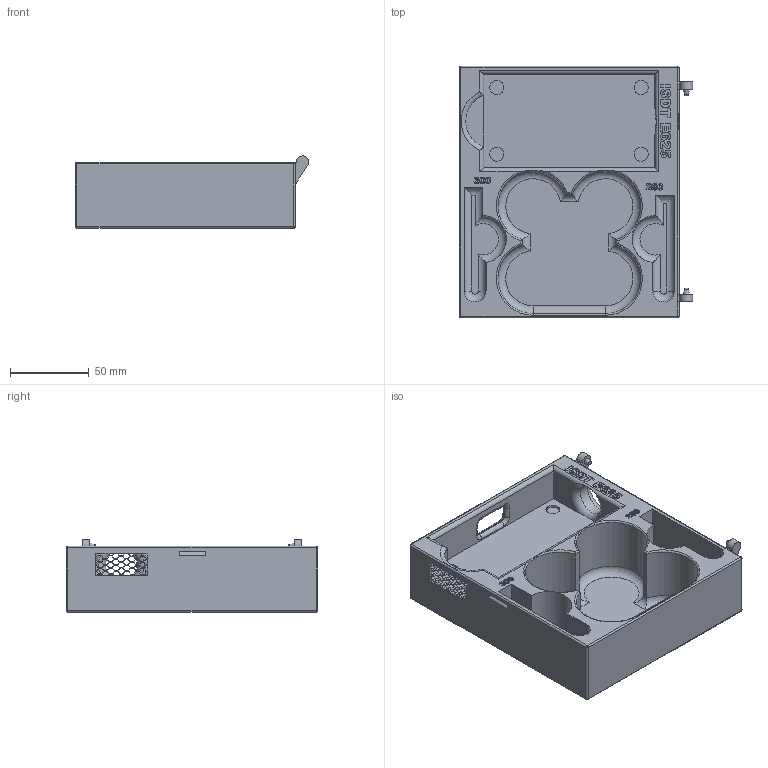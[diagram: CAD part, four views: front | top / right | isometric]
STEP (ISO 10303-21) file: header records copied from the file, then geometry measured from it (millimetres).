
FILE_DESCRIPTION(/* description */ (''),/* implementation_level */ '2;1');
FILE_NAME(/* name */ 'Air65Box.step',/* time_stamp */ '2025-11-18T21:59:40+01:00',/* author */ (''),/* organization */ (''),/* preprocessor_version */ 'ST-DEVELOPER v20.1',/* originating_system */ 'Autodesk Translation Framework v14.17.0.0',/* authorisation */ '');
FILE_SCHEMA (('AUTOMOTIVE_DESIGN { 1 0 10303 214 3 1 1 }'));
Length unit declared in the file: millimetre
Products named in the file (1): air65box
Bounding box: 148.49 x 160 x 46 mm (x, y, z)
Volume: 388064.3 mm3; surface area: 106031.8 mm2
Topology: 1 solids, 1 shells, 713 faces, 2057 edges, 1346 vertices
Faces by surface type: plane 371, bspline 248, cylinder 62, torus 22, sphere 8, cone 2
Full cylindrical faces by diameter (mm): 9 x4, 20 x1
Entity records: 26074 total; most frequent: CARTESIAN_POINT 8809, ORIENTED_EDGE 4114, DIRECTION 2607, EDGE_CURVE 2057, LINE 1369, VECTOR 1369, VERTEX_POINT 1346, EDGE_LOOP 815
